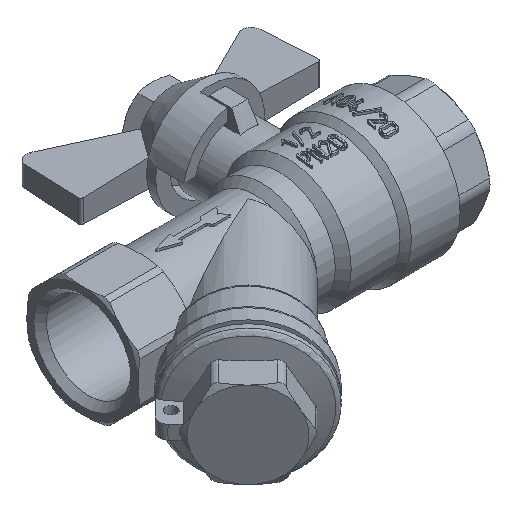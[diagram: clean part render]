
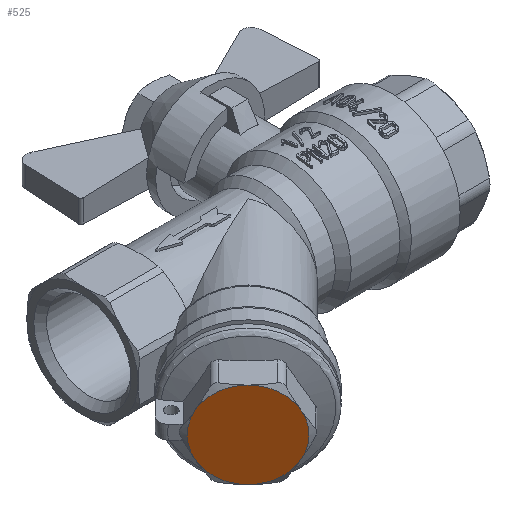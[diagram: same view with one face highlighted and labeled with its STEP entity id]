
A CAD part, isometric view. The second image highlights one B-rep face of the part: STEP entity #525.
In plain terms, the highlighted planar face has unit normal (-0.707, -0.707, 0).
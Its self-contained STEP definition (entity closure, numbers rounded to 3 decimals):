
#525=ADVANCED_FACE('',(#3786),#3788,.F.);
#3786=FACE_BOUND('',#3787,.T.);
#3787=EDGE_LOOP('',(#6757,#6758,#6759,#6760,#6761,#6762));
#3788=PLANE('',#3789);
#3789=AXIS2_PLACEMENT_3D('',#3790,#3791,#3792);
#3790=CARTESIAN_POINT('',(-50.58,-34.33,0.));
#3791=DIRECTION('',(0.707,0.707,0.));
#3792=DIRECTION('',(0.,0.,-1.));
#6757=ORIENTED_EDGE('',*,*,#8091,.T.);
#6758=ORIENTED_EDGE('',*,*,#8070,.T.);
#6759=ORIENTED_EDGE('',*,*,#8067,.T.);
#6760=ORIENTED_EDGE('',*,*,#8090,.T.);
#6761=ORIENTED_EDGE('',*,*,#8092,.T.);
#6762=ORIENTED_EDGE('',*,*,#8093,.T.);
#8067=EDGE_CURVE('',#10146,#10170,#10173,.F.);
#8070=EDGE_CURVE('',#10177,#10146,#10178,.F.);
#8090=EDGE_CURVE('',#10170,#10202,#10208,.F.);
#8091=EDGE_CURVE('',#10188,#10177,#10209,.F.);
#8092=EDGE_CURVE('',#10202,#10196,#10210,.F.);
#8093=EDGE_CURVE('',#10196,#10188,#10211,.F.);
#10146=VERTEX_POINT('',#23095);
#10170=VERTEX_POINT('',#23479);
#10173=CIRCLE('',#23529,9.5);
#10177=VERTEX_POINT('',#23569);
#10178=CIRCLE('',#23570,9.5);
#10188=VERTEX_POINT('',#23660);
#10196=VERTEX_POINT('',#23746);
#10202=VERTEX_POINT('',#23827);
#10208=CIRCLE('',#23921,9.5);
#10209=CIRCLE('',#23925,9.5);
#10210=CIRCLE('',#23929,9.5);
#10211=CIRCLE('',#23933,9.5);
#23095=CARTESIAN_POINT('',(-56.398,-28.512,4.75));
#23479=CARTESIAN_POINT('',(-56.398,-28.512,-4.75));
#23529=AXIS2_PLACEMENT_3D('',#23530,#23531,#23532);
#23530=CARTESIAN_POINT('',(-50.58,-34.33,0.));
#23531=DIRECTION('',(0.707,0.707,0.));
#23532=DIRECTION('',(-0.612,0.612,-0.5));
#23569=CARTESIAN_POINT('',(-50.58,-34.33,9.5));
#23570=AXIS2_PLACEMENT_3D('',#23571,#23572,#23573);
#23571=CARTESIAN_POINT('',(-50.58,-34.33,0.));
#23572=DIRECTION('',(0.707,0.707,0.));
#23573=DIRECTION('',(-0.612,0.612,0.5));
#23660=CARTESIAN_POINT('',(-44.762,-40.148,4.75));
#23746=CARTESIAN_POINT('',(-44.762,-40.148,-4.75));
#23827=CARTESIAN_POINT('',(-50.58,-34.33,-9.5));
#23921=AXIS2_PLACEMENT_3D('',#23922,#23923,#23924);
#23922=CARTESIAN_POINT('',(-50.58,-34.33,0.));
#23923=DIRECTION('',(0.707,0.707,0.));
#23924=DIRECTION('',(0.,0.,-1.));
#23925=AXIS2_PLACEMENT_3D('',#23926,#23927,#23928);
#23926=CARTESIAN_POINT('',(-50.58,-34.33,0.));
#23927=DIRECTION('',(0.707,0.707,0.));
#23928=DIRECTION('',(0.,0.,1.));
#23929=AXIS2_PLACEMENT_3D('',#23930,#23931,#23932);
#23930=CARTESIAN_POINT('',(-50.58,-34.33,0.));
#23931=DIRECTION('',(0.707,0.707,0.));
#23932=DIRECTION('',(0.612,-0.612,-0.5));
#23933=AXIS2_PLACEMENT_3D('',#23934,#23935,#23936);
#23934=CARTESIAN_POINT('',(-50.58,-34.33,0.));
#23935=DIRECTION('',(0.707,0.707,0.));
#23936=DIRECTION('',(0.612,-0.612,0.5));
